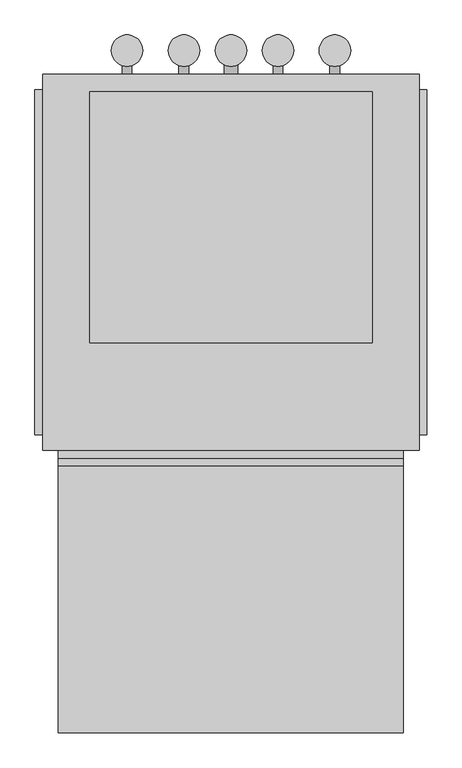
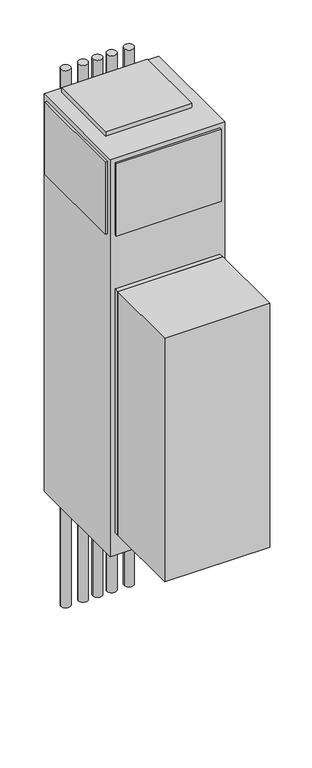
"""IFC4 building model written with IfcOpenShell, lengths in millimetres: proxy geometry, Concealed_Universal_Modular_Fan_Coil_Unit_-_42SUB_-_CARRIER_-_4-Pipe_-_WithRisers_2022 : Size 12 - 277v/60Hz/1Ph - 4/1 Coil."""

from ifc_helpers import new_model, si_unit, point, frame, frame_2d, origin, origin_with_axes, place, context, project, spatial, polyline, circle_curve, trimmed, segment, composite_curve, outline, extrude, source, transform, mapped, element, save


def mechanical_equipment_a020af52(model_context):
    return source(origin(), model_context, "Body", "SweptSolid", [
        extrude(outline(composite_curve([segment(trimmed(circle_curve(frame_2d((288.925, 282.575)), 25.4), [point((263.525, 282.575))], [point((314.325, 282.575))], False, "CARTESIAN"), True, "CONTINUOUS"), segment(trimmed(circle_curve(frame_2d((288.925, 282.575)), 25.4), [point((314.325, 282.575))], [point((263.525, 282.575))], False, "CARTESIAN"), True, "CONTINUOUS")], self_intersect=False)), frame((0.0, 0.0, -711.2), z_axis=(0.0, 0.0, 1.0), x_axis=(1.0, 0.0, 0.0)), (0.0, 0.0, 1.0), 3022.6),
        extrude(outline(composite_curve([segment(trimmed(circle_curve(frame_2d((381.0, 282.575)), 25.4), [point((355.6, 282.575))], [point((406.4, 282.575))], False, "CARTESIAN"), True, "CONTINUOUS"), segment(trimmed(circle_curve(frame_2d((381.0, 282.575)), 25.4), [point((406.4, 282.575))], [point((355.6, 282.575))], False, "CARTESIAN"), True, "CONTINUOUS")], self_intersect=False)), frame((0.0, 0.0, -711.2), z_axis=(0.0, 0.0, 1.0), x_axis=(1.0, 0.0, 0.0)), (0.0, 0.0, 1.0), 3022.6),
        extrude(outline(composite_curve([segment(trimmed(circle_curve(frame_2d((457.2, 282.575)), 25.4), [point((431.8, 282.575))], [point((482.6, 282.575))], False, "CARTESIAN"), True, "CONTINUOUS"), segment(trimmed(circle_curve(frame_2d((457.2, 282.575)), 25.4), [point((482.6, 282.575))], [point((431.8, 282.575))], False, "CARTESIAN"), True, "CONTINUOUS")], self_intersect=False)), frame((0.0, 0.0, -711.2), z_axis=(0.0, 0.0, 1.0), x_axis=(1.0, 0.0, 0.0)), (0.0, 0.0, 1.0), 3022.6),
        extrude(outline(composite_curve([segment(trimmed(circle_curve(frame_2d((533.4, 282.575)), 25.4), [point((508.0, 282.575))], [point((558.8, 282.575))], False, "CARTESIAN"), True, "CONTINUOUS"), segment(trimmed(circle_curve(frame_2d((533.4, 282.575)), 25.4), [point((558.8, 282.575))], [point((508.0, 282.575))], False, "CARTESIAN"), True, "CONTINUOUS")], self_intersect=False)), frame((0.0, 0.0, -711.2), z_axis=(0.0, 0.0, 1.0), x_axis=(1.0, 0.0, 0.0)), (0.0, 0.0, 1.0), 3022.6),
        extrude(outline(composite_curve([segment(trimmed(circle_curve(frame_2d((625.475, 282.575)), 25.4), [point((600.075, 282.575))], [point((650.875, 282.575))], False, "CARTESIAN"), True, "CONTINUOUS"), segment(trimmed(circle_curve(frame_2d((625.475, 282.575)), 25.4), [point((650.875, 282.575))], [point((600.075, 282.575))], False, "CARTESIAN"), True, "CONTINUOUS")], self_intersect=False)), frame((0.0, 0.0, -711.2), z_axis=(0.0, 0.0, 1.0), x_axis=(1.0, 0.0, 0.0)), (0.0, 0.0, 1.0), 3022.6),
        extrude(outline(polyline([(736.6, -390.525), (736.6, -822.325), (177.8, -822.325), (177.8, -390.525), (736.6, -390.525)])), frame((0.0, 0.0, 127.0), z_axis=(0.0, 0.0, 1.0), x_axis=(1.0, 0.0, 0.0)), (0.0, 0.0, 1.0), 1371.6),
        extrude(outline(composite_curve([segment(trimmed(circle_curve(frame_2d((990.6, 625.475)), 7.9375), [point((990.6, 617.5375))], [point((990.6, 633.4125))], False, "CARTESIAN"), True, "CONTINUOUS"), segment(trimmed(circle_curve(frame_2d((990.6, 625.475)), 7.9375), [point((990.6, 633.4125))], [point((990.6, 617.5375))], False, "CARTESIAN"), True, "CONTINUOUS")], self_intersect=False)), frame((0.0, 244.475, 0.0), z_axis=(0.0, 1.0, 0.0), x_axis=(0.0, 0.0, 1.0)), (0.0, 0.0, 1.0), 50.8),
        extrude(outline(composite_curve([segment(trimmed(circle_curve(frame_2d((990.6, 533.4)), 7.9375), [point((990.6, 525.4625))], [point((990.6, 541.3375))], False, "CARTESIAN"), True, "CONTINUOUS"), segment(trimmed(circle_curve(frame_2d((990.6, 533.4)), 7.9375), [point((990.6, 541.3375))], [point((990.6, 525.4625))], False, "CARTESIAN"), True, "CONTINUOUS")], self_intersect=False)), frame((0.0, 244.475, 0.0), z_axis=(0.0, 1.0, 0.0), x_axis=(0.0, 0.0, 1.0)), (0.0, 0.0, 1.0), 50.8),
        extrude(outline(composite_curve([segment(trimmed(circle_curve(frame_2d((990.6, 381.0)), 7.9375), [point((990.6, 373.0625))], [point((990.6, 388.9375))], False, "CARTESIAN"), True, "CONTINUOUS"), segment(trimmed(circle_curve(frame_2d((990.6, 381.0)), 7.9375), [point((990.6, 388.9375))], [point((990.6, 373.0625))], False, "CARTESIAN"), True, "CONTINUOUS")], self_intersect=False)), frame((0.0, 244.475, 0.0), z_axis=(0.0, 1.0, 0.0), x_axis=(0.0, 0.0, 1.0)), (0.0, 0.0, 1.0), 50.8),
        extrude(outline(composite_curve([segment(trimmed(circle_curve(frame_2d((990.6, 288.925)), 7.9375), [point((990.6, 280.9875))], [point((990.6, 296.8625))], False, "CARTESIAN"), True, "CONTINUOUS"), segment(trimmed(circle_curve(frame_2d((990.6, 288.925)), 7.9375), [point((990.6, 296.8625))], [point((990.6, 280.9875))], False, "CARTESIAN"), True, "CONTINUOUS")], self_intersect=False)), frame((0.0, 244.475, 0.0), z_axis=(0.0, 1.0, 0.0), x_axis=(0.0, 0.0, 1.0)), (0.0, 0.0, 1.0), 50.8),
        extrude(outline(composite_curve([segment(trimmed(circle_curve(frame_2d((76.2, 457.2)), 11.1125), [point((76.2, 446.0875))], [point((76.2, 468.3125))], False, "CARTESIAN"), True, "CONTINUOUS"), segment(trimmed(circle_curve(frame_2d((76.2, 457.2)), 11.1125), [point((76.2, 468.3125))], [point((76.2, 446.0875))], False, "CARTESIAN"), True, "CONTINUOUS")], self_intersect=False)), frame((0.0, 244.475, 0.0), z_axis=(0.0, 1.0, 0.0), x_axis=(0.0, 0.0, 1.0)), (0.0, 0.0, 1.0), 50.8),
        extrude(outline(polyline([(685.8, 215.9), (685.8, -190.5), (228.6, -190.5), (228.6, 215.9), (685.8, 215.9)])), frame((0.0, 0.0, 2235.2), z_axis=(0.0, 0.0, 1.0), x_axis=(1.0, 0.0, 0.0)), (0.0, 0.0, 1.0), 25.4),
        extrude(outline(polyline([(139.7, -339.725), (139.7, 219.075), (152.4, 219.075), (152.4, -339.725), (139.7, -339.725)])), frame((0.0, 0.0, 1803.4), z_axis=(0.0, 0.0, 1.0), x_axis=(1.0, 0.0, 0.0)), (0.0, 0.0, 1.0), 406.4),
        extrude(outline(polyline([(774.7, 219.075), (774.7, -339.725), (762.0, -339.725), (762.0, 219.075), (774.7, 219.075)])), frame((0.0, 0.0, 1803.4), z_axis=(0.0, 0.0, 1.0), x_axis=(1.0, 0.0, 0.0)), (0.0, 0.0, 1.0), 406.4),
        extrude(outline(polyline([(736.6, -377.825), (177.8, -377.825), (177.8, -365.125), (736.6, -365.125), (736.6, -377.825)])), frame((0.0, 0.0, 1803.4), z_axis=(0.0, 0.0, 1.0), x_axis=(1.0, 0.0, 0.0)), (0.0, 0.0, 1.0), 406.4),
        extrude(outline(polyline([(736.6, -390.525), (177.8, -390.525), (177.8, -365.125), (736.6, -365.125), (736.6, -390.525)])), frame((0.0, 0.0, 127.0), z_axis=(0.0, 0.0, 1.0), x_axis=(1.0, 0.0, 0.0)), (0.0, 0.0, 1.0), 1371.6),
        extrude(outline(polyline([(762.0, 244.475), (762.0, -365.125), (152.4, -365.125), (152.4, 244.475), (762.0, 244.475)])), origin_with_axes(), (0.0, 0.0, 1.0), 2235.2),
    ])


if __name__ == "__main__":
    model = new_model("IFC4")
    model_context = context("Model", 3, world=origin())
    ifc_project = project(units=[si_unit("LENGTHUNIT", "METRE", prefix="MILLI")], contexts=[model_context])
    site = spatial("IfcSite", under=ifc_project)
    building = spatial("IfcBuilding", under=site)
    placement = place(None, origin())
    mechanical_equipment_shape = mechanical_equipment_a020af52(model_context)
    element("IfcBuildingElementProxy", 1, Name="Concealed_Universal_Modular_Fan_Coil_Unit_-_42SUB_-_CARRIER_-_4-Pipe_-_WithRisers_2022 : Size 12 - 277v/60Hz/1Ph - 4/1 Coil", ObjectType="Concealed_Universal_Modular_Fan_Coil_Unit_-_42SUB_-_CARRIER_-_4-Pipe_-_WithRisers_2022 : Size 12 - 277v/60Hz/1Ph - 4/1 Coil", at=placement, inside=building, context=model_context, shape_type="MappedRepresentation", body=[
        mapped(mechanical_equipment_shape, transform((0.0, 0.0, 0.0), x_axis=(1.0, 0.0, 0.0), y_axis=(0.0, 1.0, 0.0), z_axis=(0.0, 0.0, 1.0))),
    ])
    save(model, "model.ifc")
